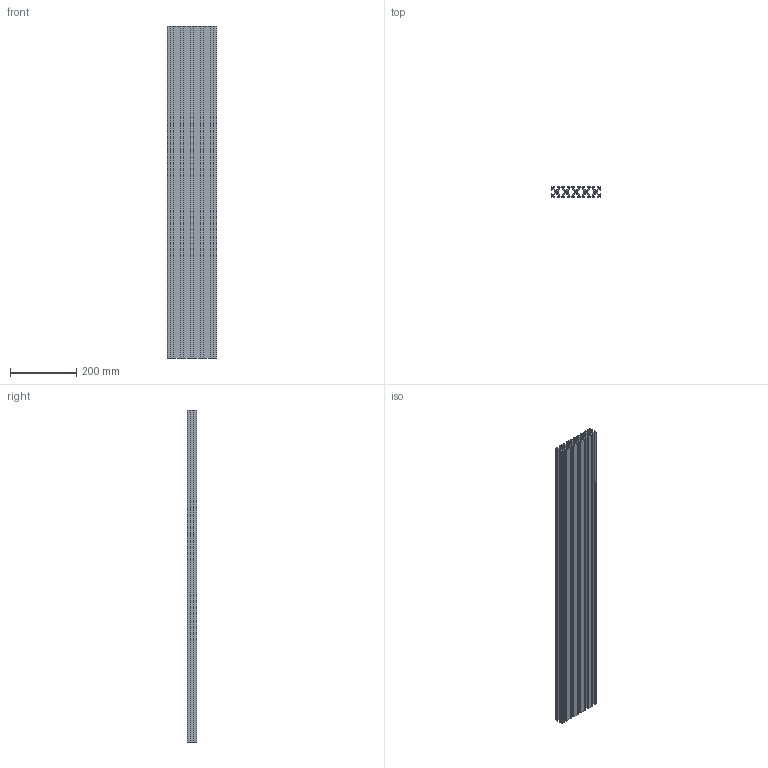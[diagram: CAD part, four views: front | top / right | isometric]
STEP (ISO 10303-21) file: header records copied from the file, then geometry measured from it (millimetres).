
FILE_DESCRIPTION (( 'STEP AP214' ), '1' );
FILE_NAME ('Perfil 30 x 150.STEP', '2018-09-14T01:50:32', ( 'Marcio' ), ( '' ), 'SwSTEP 2.0', 'SolidWorks 2017', '' );
FILE_SCHEMA (( 'AUTOMOTIVE_DESIGN' ));
Length unit declared in the file: millimetre
Products named in the file (1): Perfil 30 x 150
Bounding box: 150 x 30 x 1000 mm (x, y, z)
Volume: 1455817.4 mm3; surface area: 1183576.6 mm2
Topology: 1 solids, 1 shells, 311 faces, 927 edges, 618 vertices
Faces by surface type: plane 238, cylinder 73
Full cylindrical faces by diameter (mm): 6.8 x5
Entity records: 10428 total; most frequent: CARTESIAN_POINT 1852, ORIENTED_EDGE 1844, DIRECTION 1692, EDGE_CURVE 922, VECTOR 776, LINE 776, VERTEX_POINT 618, AXIS2_PLACEMENT_3D 458
